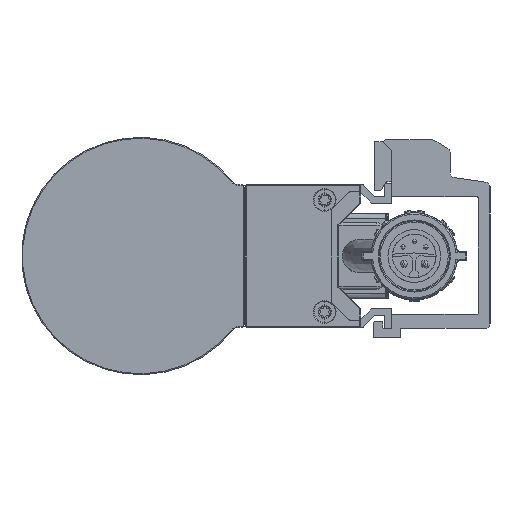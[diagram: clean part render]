
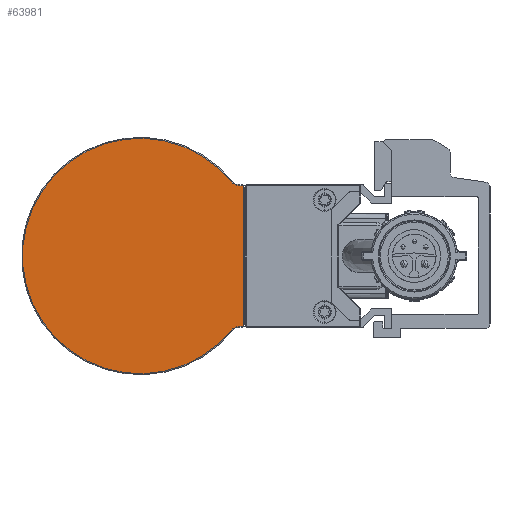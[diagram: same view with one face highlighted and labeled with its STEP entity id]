
A CAD part, left-side view. The second image highlights one B-rep face of the part: STEP entity #63981.
In plain terms, the highlighted planar face has unit normal (-1, 0, 0).
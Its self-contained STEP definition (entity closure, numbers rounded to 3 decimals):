
#1699 = DIRECTION ( 'NONE',  ( -1., 0., 0. ) ) ;
#1942 = LINE ( 'NONE', #26793, #19332 ) ;
#3538 = AXIS2_PLACEMENT_3D ( 'NONE', #33913, #17581, #52722 ) ;
#4123 = EDGE_CURVE ( 'NONE', #24561, #12003, #1942, .T. ) ;
#4783 = ORIENTED_EDGE ( 'NONE', *, *, #4123, .T. ) ;
#5325 = VERTEX_POINT ( 'NONE', #44004 ) ;
#6436 = DIRECTION ( 'NONE',  ( 1., 0., 0. ) ) ;
#7018 = EDGE_CURVE ( 'NONE', #39650, #22469, #49002, .T. ) ;
#7144 = DIRECTION ( 'NONE',  ( -1., 0., 0. ) ) ;
#9615 = AXIS2_PLACEMENT_3D ( 'NONE', #45255, #50525, #30769 ) ;
#11429 = EDGE_CURVE ( 'NONE', #40284, #5325, #18901, .T. ) ;
#11671 = CIRCLE ( 'NONE', #9615, 0.3 ) ;
#12003 = VERTEX_POINT ( 'NONE', #37686 ) ;
#13856 = EDGE_CURVE ( 'NONE', #48224, #39650, #64050, .T. ) ;
#14132 = ORIENTED_EDGE ( 'NONE', *, *, #13856, .T. ) ;
#16688 = VERTEX_POINT ( 'NONE', #34818 ) ;
#17002 = CARTESIAN_POINT ( 'NONE',  ( -450., 33.734, -15.615 ) ) ;
#17413 = PLANE ( 'NONE',  #56918 ) ;
#17581 = DIRECTION ( 'NONE',  ( 1., 0., 0. ) ) ;
#18901 = LINE ( 'NONE', #48122, #32952 ) ;
#19332 = VECTOR ( 'NONE', #44037, 1000. ) ;
#20744 = ORIENTED_EDGE ( 'NONE', *, *, #7018, .T. ) ;
#22469 = VERTEX_POINT ( 'NONE', #44357 ) ;
#23569 = ORIENTED_EDGE ( 'NONE', *, *, #55083, .T. ) ;
#24561 = VERTEX_POINT ( 'NONE', #49842 ) ;
#25339 = EDGE_CURVE ( 'NONE', #16688, #24561, #11671, .T. ) ;
#26793 = CARTESIAN_POINT ( 'NONE',  ( -450., 31.2, -14.5 ) ) ;
#27182 = CARTESIAN_POINT ( 'NONE',  ( -450., 31.5, 14.8 ) ) ;
#29228 = CARTESIAN_POINT ( 'NONE',  ( -450., 32.025, -14.8 ) ) ;
#30769 = DIRECTION ( 'NONE',  ( 0., 0., -1. ) ) ;
#32942 = AXIS2_PLACEMENT_3D ( 'NONE', #41958, #1699, #61738 ) ;
#32952 = VECTOR ( 'NONE', #58323, 1000. ) ;
#33913 = CARTESIAN_POINT ( 'NONE',  ( -450., 32.025, 17. ) ) ;
#34818 = CARTESIAN_POINT ( 'NONE',  ( -450., 31.5, -14.8 ) ) ;
#37176 = CIRCLE ( 'NONE', #32942, 0.3 ) ;
#37686 = CARTESIAN_POINT ( 'NONE',  ( -450., 31.2, 14.5 ) ) ;
#38516 = AXIS2_PLACEMENT_3D ( 'NONE', #51361, #6436, #41776 ) ;
#38995 = DIRECTION ( 'NONE',  ( 0., 0., 1. ) ) ;
#39650 = VERTEX_POINT ( 'NONE', #17002 ) ;
#40284 = VERTEX_POINT ( 'NONE', #27182 ) ;
#41080 = CARTESIAN_POINT ( 'NONE',  ( -450., 33.734, 15.614 ) ) ;
#41776 = DIRECTION ( 'NONE',  ( 0., 0.777, 0.63 ) ) ;
#41958 = CARTESIAN_POINT ( 'NONE',  ( -450., 31.5, 14.5 ) ) ;
#42642 = FACE_OUTER_BOUND ( 'NONE', #56620, .T. ) ;
#44004 = CARTESIAN_POINT ( 'NONE',  ( -450., 32.025, 14.8 ) ) ;
#44037 = DIRECTION ( 'NONE',  ( 0., 0., 1. ) ) ;
#44357 = CARTESIAN_POINT ( 'NONE',  ( -450., 32.025, -14.8 ) ) ;
#44961 = ORIENTED_EDGE ( 'NONE', *, *, #46147, .T. ) ;
#45255 = CARTESIAN_POINT ( 'NONE',  ( -450., 31.5, -14.5 ) ) ;
#46015 = ORIENTED_EDGE ( 'NONE', *, *, #11429, .T. ) ;
#46147 = EDGE_CURVE ( 'NONE', #12003, #40284, #37176, .T. ) ;
#48122 = CARTESIAN_POINT ( 'NONE',  ( -450., 31.5, 14.8 ) ) ;
#48224 = VERTEX_POINT ( 'NONE', #41080 ) ;
#49002 = CIRCLE ( 'NONE', #38516, 2.2 ) ;
#49055 = VECTOR ( 'NONE', #49623, 1000. ) ;
#49623 = DIRECTION ( 'NONE',  ( 0., -1., 0. ) ) ;
#49842 = CARTESIAN_POINT ( 'NONE',  ( -450., 31.2, -14.5 ) ) ;
#50246 = EDGE_CURVE ( 'NONE', #5325, #48224, #60075, .T. ) ;
#50525 = DIRECTION ( 'NONE',  ( -1., 0., 0. ) ) ;
#51361 = CARTESIAN_POINT ( 'NONE',  ( -450., 32.025, -17. ) ) ;
#51427 = CARTESIAN_POINT ( 'NONE',  ( -450., 53.001, 0. ) ) ;
#52722 = DIRECTION ( 'NONE',  ( 0., 0., -1. ) ) ;
#52877 = DIRECTION ( 'NONE',  ( -1., 0., 0. ) ) ;
#54218 = LINE ( 'NONE', #29228, #49055 ) ;
#55083 = EDGE_CURVE ( 'NONE', #22469, #16688, #54218, .T. ) ;
#55536 = ORIENTED_EDGE ( 'NONE', *, *, #25339, .T. ) ;
#56620 = EDGE_LOOP ( 'NONE', ( #23569, #55536, #4783, #44961, #46015, #64488, #14132, #20744 ) ) ;
#56918 = AXIS2_PLACEMENT_3D ( 'NONE', #57471, #52877, #38995 ) ;
#57471 = CARTESIAN_POINT ( 'NONE',  ( -450., 53.001, 0. ) ) ;
#58323 = DIRECTION ( 'NONE',  ( 0., 1., 0. ) ) ;
#58773 = AXIS2_PLACEMENT_3D ( 'NONE', #51427, #7144, #61616 ) ;
#60075 = CIRCLE ( 'NONE', #3538, 2.2 ) ;
#61616 = DIRECTION ( 'NONE',  ( 0., -0.777, 0.63 ) ) ;
#61738 = DIRECTION ( 'NONE',  ( 0., -1., 0. ) ) ;
#63981 = ADVANCED_FACE ( 'NONE', ( #42642 ), #17413, .T. ) ;
#64050 = CIRCLE ( 'NONE', #58773, 24.8 ) ;
#64488 = ORIENTED_EDGE ( 'NONE', *, *, #50246, .T. ) ;
